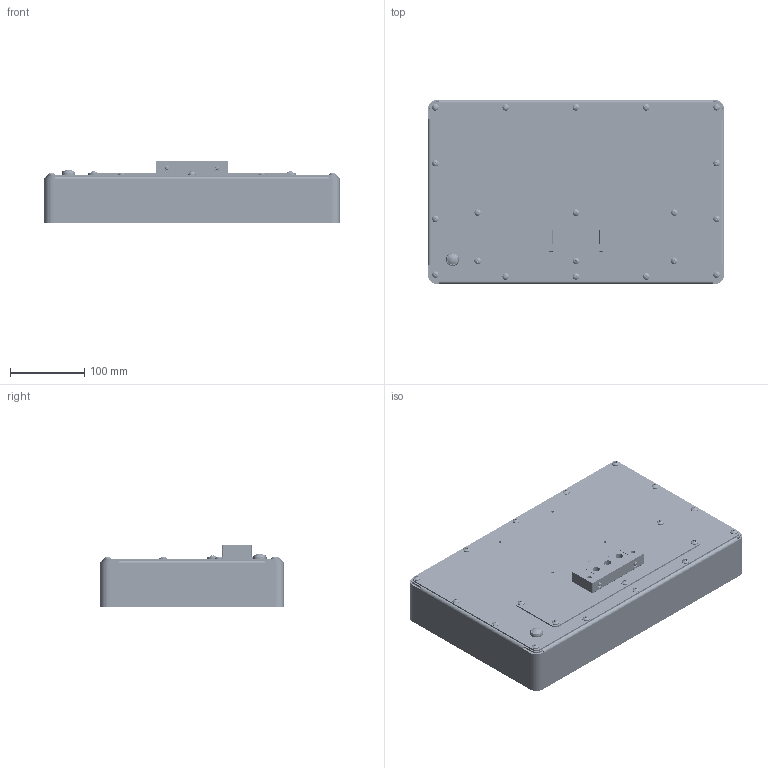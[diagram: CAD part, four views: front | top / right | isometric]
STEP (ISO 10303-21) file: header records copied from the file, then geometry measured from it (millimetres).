
FILE_DESCRIPTION (( 'STEP AP203' ), '1' );
FILE_NAME ('K156S-MON.STEP', '2026-08-03T10:33:44', ( '' ), ( '' ), 'SwSTEP 2.0', 'SolidWorks 2025', '' );
FILE_SCHEMA (( 'CONFIG_CONTROL_DESIGN' ));
Length unit declared in the file: millimetre
Products named in the file (47): S-M5-2-ZI Inpersmoer; 48258_200_06; 48258_200_07; IPPC00-26 Backpanel C08-1525NPH; ITW 59111; ITW 59111_button; K156S-15 Displaystrip; RS232_panelmount_RS 446-462; Tubtara M4 HUKX30; K-UNI-01 Componenten assembly_15.6" monitor; ITW 59111_ring; IPTFT00-10 Connector cover; ITW 59111_locknut; K156S-13 backcover; GPC-156G-PD-G03B.; IPPC00-13 Montageplaat klein; K156S-12 Panelframe; CPCB membrame key pad; Sealing^K156S-00 Assembly; Part2^K156S-00 Assembly; 48258_200; TEST BS-M4-8 RVS blinde inpersafstandsteun; G156HCE-L01; 48258_200_03; DC002; DIN 967 - M4 x 12 - Z --- 10.6N_DIN 967 - M4 x 12 - Z --- 10.6N; Meanwell IRM-60-12ST; 48258_200_01; K156S-MON; Tubtara M4 HUKX20; 48258_200_05; K156S-10 Front; V-UNI-12 Bevestigingsplaat; 220V IEC snap-in input socket 539-2017; 48258_200_09; 48258_200_04; K156S-11 Glassmount; 48258_200_02; S-M3-1-ZI Inpersmoer; SO-3,5M3-10-ZI Inpersafstandsteun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
Assembly tree (96 placements, depth 4):
  K156S-MON
    K156S-10 Front
      K156S-10 Front
      Tubtara M4 HUKX30  x14
    K156S-11 Glassmount
    K156S-12 Panelframe
    K156S-13 backcover
      K156S-13 backcover
      Tubtara M4 HUKX20  x6
      TEST BS-M4-8 RVS blinde inpersafstandsteun  x4
    K-UNI-01 Componenten assembly_15.6" monitor
      220V IEC snap-in input socket 539-2017
      IPPC00-26 Backpanel C08-1525NPH
      V-UNI-12 Bevestigingsplaat
        V-UNI-12 Bevestigingsplaat
        SO-3,5M3-10-ZI Inpersafstandsteun  x6
      C08-1525NPH
      CPCB membrame key pad
      IPTFT00-10 Connector cover
        IPTFT00-10 Connector cover
        S-M5-2-ZI Inpersmoer  x2
      48258_200
        48258_200_01
        48258_200_02
        48258_200_03
        48258_200_04
        48258_200_05
        48258_200_06
        48258_200_07
        48258_200_08
        48258_200_09
      RS232_panelmount_RS 446-462
      DC002
      Meanwell IRM-60-12ST
      IPPC00-13 Montageplaat klein
        IPPC00-13 Montageplaat klein
        S-M3-1-ZI Inpersmoer  x4
    G156HCE-L01
    GPC-156G-PD-G03B.
    Sealing^K156S-00 Assembly
    ITW 59111
      ITW 59111_button
      ITW 59111_ring
      ITW 59111_locknut
    DIN 967 - M4 x 12 - Z --- 10.6N_DIN 967 - M4 x 12 - Z --- 10.6N  x20
    K156S-15 Displaystrip  x2
    Part2^K156S-00 Assembly
Bounding box: 399 x 248 x 84 mm (x, y, z)
Volume: 1790491.1 mm3; surface area: 1194312.6 mm2
Topology: 90 solids, 648 shells, 6956 faces, 20916 edges, 14645 vertices
Faces by surface type: plane 4829, cylinder 1299, bspline 426, cone 302, torus 64, sphere 36
Full cylindrical faces by diameter (mm): 0.1 x1, 0.2 x1, 0.8 x16, 0.92 x9, 1 x3, 1.2 x1, 1.27 x15, 1.397 x2, 1.8 x3, 2 x1, 2.5 x10, 3 x8, 3.2 x2, 3.4 x40, 3.5 x14, 4 x34, 4.008 x14, 4.04 x14, 4.2 x8, 4.3 x4, 4.41 x2, 4.5 x6, 5 x22, 5.4 x6, 5.49 x6, 5.5 x18, 5.8 x2, 6 x20, 6.2 x10, 6.3 x5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
Entity records: 235158 total; most frequent: CARTESIAN_POINT 78843, ORIENTED_EDGE 29319, DIRECTION 27621, EDGE_CURVE 17633, VERTEX_POINT 12753, LINE 12401, VECTOR 12401, AXIS2_PLACEMENT_3D 7610
